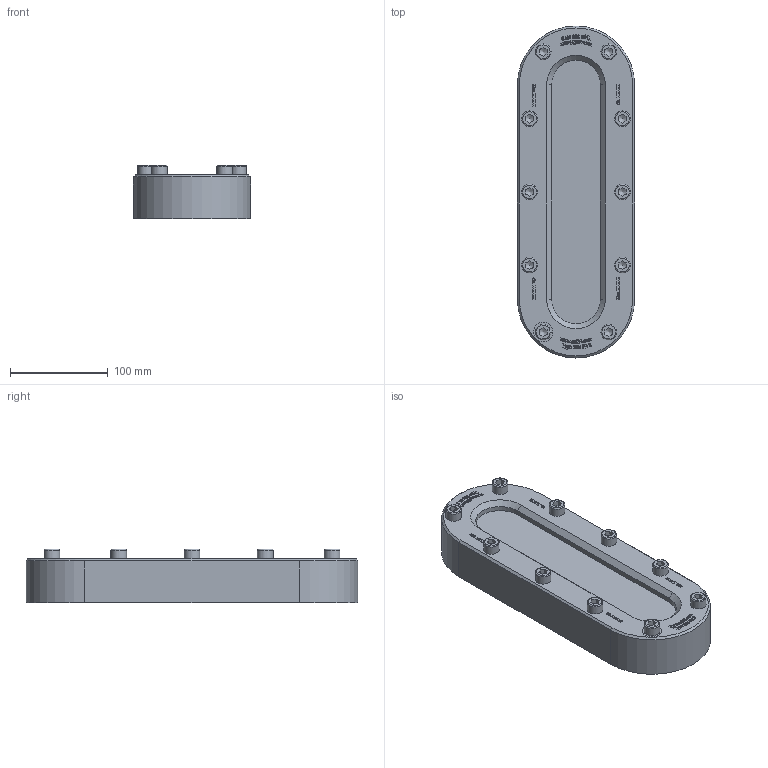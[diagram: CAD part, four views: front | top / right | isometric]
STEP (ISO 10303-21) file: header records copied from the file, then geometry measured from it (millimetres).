
FILE_DESCRIPTION(/* description */ (''),/* implementation_level */ '2;1');
FILE_NAME(/* name */ 'W:\Konstruktion_ACI\335\_Zeichnungen\STEP\ACI-335-340.stp',/* time_stamp */ '2022-03-01T17:49:44+01:00',/* author */ ('koslowksi'),/* organization */ ('ACI Industriearmaturen'),/* preprocessor_version */ 'ST-DEVELOPER v16.1',/* originating_system */ 'Autodesk Inventor 2016',/* authorisation */ '');
FILE_SCHEMA (('AUTOMOTIVE_DESIGN { 1 0 10303 214 3 1 1 }'));
Length unit declared in the file: centimetre
Products named in the file (1): ACI-335-340.stp
Bounding box: 120 x 340 x 54.9 mm (x, y, z)
Volume: 1328001.6 mm3; surface area: 134256.5 mm2
Topology: 1 solids, 1 shells, 1370 faces, 3758 edges, 2499 vertices
Faces by surface type: plane 905, bspline 424, cylinder 17, cone 14, torus 10
Full cylindrical faces by diameter (mm): 16 x10, 20 x1
Entity records: 46102 total; most frequent: CARTESIAN_POINT 13191, ORIENTED_EDGE 7416, DIRECTION 4742, EDGE_CURVE 3708, LINE 2752, VECTOR 2752, VERTEX_POINT 2480, EDGE_LOOP 1510
